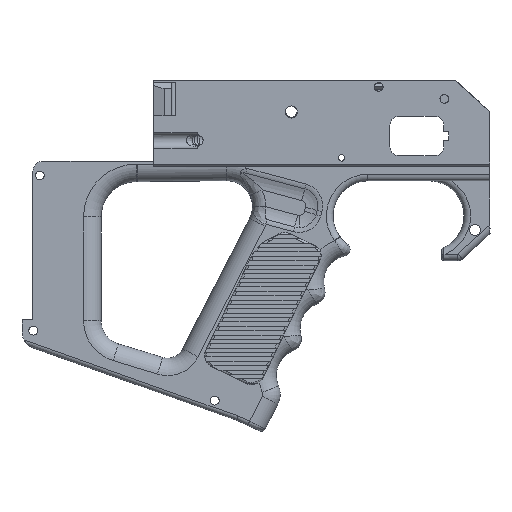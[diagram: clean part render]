
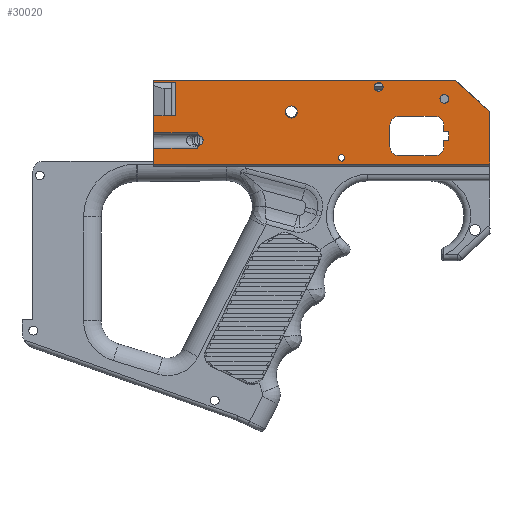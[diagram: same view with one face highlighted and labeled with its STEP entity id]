
A CAD part, left-side view. The second image highlights one B-rep face of the part: STEP entity #30020.
In plain terms, the highlighted planar face has unit normal (-1, 0, 0).
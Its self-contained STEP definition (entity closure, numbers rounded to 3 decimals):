
#1532=CARTESIAN_POINT('',(-19.6,554.756,-50.248));
#1533=VERTEX_POINT('',#1532);
#1540=CARTESIAN_POINT('',(-19.6,554.74,-45.76));
#1541=VERTEX_POINT('',#1540);
#1542=CARTESIAN_POINT('',(-19.6,555.85,-48.));
#1543=DIRECTION('',(-1.,0.,0.));
#1544=DIRECTION('',(0.,0.,1.));
#1545=AXIS2_PLACEMENT_3D('',#1542,#1543,#1544);
#1546=CIRCLE('',#1545,2.5);
#1547=EDGE_CURVE('',#1533,#1541,#1546,.T.);
#1783=CARTESIAN_POINT('',(-19.6,422.113,-34.796));
#1784=VERTEX_POINT('',#1783);
#1791=CARTESIAN_POINT('',(-19.6,422.113,-58.784));
#1792=VERTEX_POINT('',#1791);
#1793=CARTESIAN_POINT('',(-19.6,422.113,-34.796));
#1794=DIRECTION('',(-0.,-0.,-1.));
#1795=VECTOR('',#1794,23.988);
#1796=LINE('',#1793,#1795);
#1797=EDGE_CURVE('',#1784,#1792,#1796,.T.);
#2079=CARTESIAN_POINT('',(-19.6,463.9,-55.));
#2080=VERTEX_POINT('',#2079);
#2087=CARTESIAN_POINT('',(-19.6,447.2,-55.));
#2088=VERTEX_POINT('',#2087);
#2089=CARTESIAN_POINT('',(-19.6,463.9,-55.));
#2090=DIRECTION('',(-0.,-1.,-0.));
#2091=VECTOR('',#2090,16.7);
#2092=LINE('',#2089,#2091);
#2093=EDGE_CURVE('',#2080,#2088,#2092,.T.);
#2476=CARTESIAN_POINT('',(-19.6,575.915,-58.784));
#2477=VERTEX_POINT('',#2476);
#2484=CARTESIAN_POINT('',(-19.6,575.915,-51.47));
#2485=VERTEX_POINT('',#2484);
#2486=CARTESIAN_POINT('',(-19.6,575.915,-58.784));
#2487=DIRECTION('',(0.,0.,1.));
#2488=VECTOR('',#2487,7.313);
#2489=LINE('',#2486,#2488);
#2490=EDGE_CURVE('',#2477,#2485,#2489,.T.);
#2509=CARTESIAN_POINT('',(-19.6,575.915,-44.47));
#2510=VERTEX_POINT('',#2509);
#2517=CARTESIAN_POINT('',(-19.6,575.915,-20.698));
#2518=VERTEX_POINT('',#2517);
#2519=CARTESIAN_POINT('',(-19.6,575.915,-20.698));
#2520=DIRECTION('',(0.,0.,-1.));
#2521=VECTOR('',#2520,23.772);
#2522=LINE('',#2519,#2521);
#2523=EDGE_CURVE('',#2518,#2510,#2522,.T.);
#3096=CARTESIAN_POINT('',(-19.6,443.2,-51.));
#3097=VERTEX_POINT('',#3096);
#3104=CARTESIAN_POINT('',(-19.6,443.2,-48.));
#3105=VERTEX_POINT('',#3104);
#3106=CARTESIAN_POINT('',(-19.6,443.2,-48.));
#3107=DIRECTION('',(0.,0.,-1.));
#3108=VECTOR('',#3107,3.);
#3109=LINE('',#3106,#3108);
#3110=EDGE_CURVE('',#3105,#3097,#3109,.T.);
#4447=CARTESIAN_POINT('',(-19.6,437.809,-20.698));
#4448=VERTEX_POINT('',#4447);
#4449=CARTESIAN_POINT('',(-19.6,575.915,-20.698));
#4450=DIRECTION('',(-0.,-1.,-0.));
#4451=VECTOR('',#4450,138.107);
#4452=LINE('',#4449,#4451);
#4453=EDGE_CURVE('',#2518,#4448,#4452,.T.);
#4557=CARTESIAN_POINT('',(-19.6,437.809,-20.698));
#4558=DIRECTION('',(-0.,-0.744,-0.668));
#4559=VECTOR('',#4558,21.098);
#4560=LINE('',#4557,#4559);
#4561=EDGE_CURVE('',#4448,#1784,#4560,.T.);
#18595=CARTESIAN_POINT('',(-19.6,443.2,-44.));
#18596=VERTEX_POINT('',#18595);
#18605=CARTESIAN_POINT('',(-19.6,443.2,-41.));
#18606=VERTEX_POINT('',#18605);
#18607=CARTESIAN_POINT('',(-19.6,443.2,-41.));
#18608=DIRECTION('',(0.,0.,-1.));
#18609=VECTOR('',#18608,3.);
#18610=LINE('',#18607,#18609);
#18611=EDGE_CURVE('',#18606,#18596,#18610,.T.);
#18671=CARTESIAN_POINT('',(-19.6,467.9,-41.));
#18672=VERTEX_POINT('',#18671);
#18679=CARTESIAN_POINT('',(-19.6,467.9,-51.));
#18680=VERTEX_POINT('',#18679);
#18681=CARTESIAN_POINT('',(-19.6,467.9,-41.));
#18682=DIRECTION('',(-0.,-0.,-1.));
#18683=VECTOR('',#18682,10.);
#18684=LINE('',#18681,#18683);
#18685=EDGE_CURVE('',#18672,#18680,#18684,.T.);
#18711=CARTESIAN_POINT('',(-19.6,447.2,-37.));
#18712=VERTEX_POINT('',#18711);
#18719=CARTESIAN_POINT('',(-19.6,463.9,-37.));
#18720=VERTEX_POINT('',#18719);
#18721=CARTESIAN_POINT('',(-19.6,447.2,-37.));
#18722=DIRECTION('',(0.,1.,0.));
#18723=VECTOR('',#18722,16.7);
#18724=LINE('',#18721,#18723);
#18725=EDGE_CURVE('',#18712,#18720,#18724,.T.);
#19213=CARTESIAN_POINT('',(-19.6,440.9,-48.));
#19214=VERTEX_POINT('',#19213);
#19221=CARTESIAN_POINT('',(-19.6,440.9,-44.));
#19222=VERTEX_POINT('',#19221);
#19223=CARTESIAN_POINT('',(-19.6,440.9,-44.));
#19224=DIRECTION('',(0.,0.,-1.));
#19225=VECTOR('',#19224,4.);
#19226=LINE('',#19223,#19225);
#19227=EDGE_CURVE('',#19222,#19214,#19226,.T.);
#19245=CARTESIAN_POINT('',(-19.6,443.2,-44.));
#19246=DIRECTION('',(-0.,-1.,-0.));
#19247=VECTOR('',#19246,2.3);
#19248=LINE('',#19245,#19247);
#19249=EDGE_CURVE('',#18596,#19222,#19248,.T.);
#19262=CARTESIAN_POINT('',(-19.6,440.9,-48.));
#19263=DIRECTION('',(0.,1.,0.));
#19264=VECTOR('',#19263,2.3);
#19265=LINE('',#19262,#19264);
#19266=EDGE_CURVE('',#19214,#3105,#19265,.T.);
#19362=CARTESIAN_POINT('',(-19.6,447.2,-51.));
#19363=DIRECTION('',(1.,0.,0.));
#19364=DIRECTION('',(0.,0.,-1.));
#19365=AXIS2_PLACEMENT_3D('',#19362,#19363,#19364);
#19366=CIRCLE('',#19365,4.);
#19367=EDGE_CURVE('',#3097,#2088,#19366,.T.);
#19380=CARTESIAN_POINT('',(-19.6,447.2,-41.));
#19381=DIRECTION('',(1.,0.,0.));
#19382=DIRECTION('',(0.,0.,-1.));
#19383=AXIS2_PLACEMENT_3D('',#19380,#19381,#19382);
#19384=CIRCLE('',#19383,4.);
#19385=EDGE_CURVE('',#18712,#18606,#19384,.T.);
#19416=CARTESIAN_POINT('',(-19.6,463.9,-41.));
#19417=DIRECTION('',(1.,-0.,-0.));
#19418=DIRECTION('',(0.,0.,1.));
#19419=AXIS2_PLACEMENT_3D('',#19416,#19417,#19418);
#19420=CIRCLE('',#19419,4.);
#19421=EDGE_CURVE('',#18672,#18720,#19420,.T.);
#19440=CARTESIAN_POINT('',(-19.6,463.9,-51.));
#19441=DIRECTION('',(1.,-0.,-0.));
#19442=DIRECTION('',(0.,0.,1.));
#19443=AXIS2_PLACEMENT_3D('',#19440,#19441,#19442);
#19444=CIRCLE('',#19443,4.);
#19445=EDGE_CURVE('',#2080,#18680,#19444,.T.);
#23771=CARTESIAN_POINT('',(-19.6,490.,-57.45));
#23772=VERTEX_POINT('',#23771);
#23787=CARTESIAN_POINT('',(-19.6,490.,-56.));
#23788=DIRECTION('',(-1.,-0.,-0.));
#23789=DIRECTION('',(0.,0.,-1.));
#23790=AXIS2_PLACEMENT_3D('',#23787,#23788,#23789);
#23791=CIRCLE('',#23790,1.45);
#23792=EDGE_CURVE('',#23772,#23772,#23791,.T.);
#29804=CARTESIAN_POINT('',(-19.6,555.915,-51.47));
#29805=VERTEX_POINT('',#29804);
#29806=CARTESIAN_POINT('',(-19.6,555.915,-51.47));
#29807=DIRECTION('',(0.,1.,0.));
#29808=VECTOR('',#29807,20.);
#29809=LINE('',#29806,#29808);
#29810=EDGE_CURVE('',#29805,#2485,#29809,.T.);
#29859=CARTESIAN_POINT('',(-19.6,555.915,-44.47));
#29860=VERTEX_POINT('',#29859);
#29867=CARTESIAN_POINT('',(-19.6,555.915,-44.47));
#29868=DIRECTION('',(0.,1.,0.));
#29869=VECTOR('',#29868,20.);
#29870=LINE('',#29867,#29869);
#29871=EDGE_CURVE('',#29860,#2510,#29870,.T.);
#29884=CARTESIAN_POINT('',(-19.6,553.675,-43.609));
#29885=DIRECTION('',(-1.,-0.,-0.));
#29886=DIRECTION('',(0.,0.,-1.));
#29887=AXIS2_PLACEMENT_3D('',#29884,#29885,#29886);
#29888=CIRCLE('',#29887,2.4);
#29889=EDGE_CURVE('',#29860,#1541,#29888,.T.);
#29902=CARTESIAN_POINT('',(-19.6,553.705,-52.406));
#29903=DIRECTION('',(-1.,-0.,-0.));
#29904=DIRECTION('',(0.,0.,-1.));
#29905=AXIS2_PLACEMENT_3D('',#29902,#29903,#29904);
#29906=CIRCLE('',#29905,2.4);
#29907=EDGE_CURVE('',#1533,#29805,#29906,.T.);
#29913=CARTESIAN_POINT('',(-19.6,0.,0.));
#29914=DIRECTION('',(-1.,0.,0.));
#29915=DIRECTION('',(0.,1.,0.));
#29916=AXIS2_PLACEMENT_3D('',#29913,#29914,#29915);
#29917=PLANE('',#29916);
#29918=CARTESIAN_POINT('',(-19.6,513.,-32.22));
#29919=VERTEX_POINT('',#29918);
#29920=CARTESIAN_POINT('',(-19.6,513.,-35.));
#29921=DIRECTION('',(-1.,0.,0.));
#29922=DIRECTION('',(0.,0.,1.));
#29923=AXIS2_PLACEMENT_3D('',#29920,#29921,#29922);
#29924=CIRCLE('',#29923,2.78);
#29925=EDGE_CURVE('',#29919,#29919,#29924,.T.);
#29926=ORIENTED_EDGE('',*,*,#29925,.F.);
#29927=EDGE_LOOP('',(#29926));
#29928=FACE_BOUND('',#29927,.T.);
#29929=CARTESIAN_POINT('',(-19.6,565.735,-21.3));
#29930=VERTEX_POINT('',#29929);
#29931=CARTESIAN_POINT('',(-19.6,572.735,-21.3));
#29932=VERTEX_POINT('',#29931);
#29933=CARTESIAN_POINT('',(-19.6,565.735,-21.3));
#29934=DIRECTION('',(-0.,1.,-0.));
#29935=VECTOR('',#29934,7.);
#29936=LINE('',#29933,#29935);
#29937=EDGE_CURVE('',#29930,#29932,#29936,.T.);
#29938=ORIENTED_EDGE('',*,*,#29937,.F.);
#29939=CARTESIAN_POINT('',(-19.6,565.735,-36.7));
#29940=VERTEX_POINT('',#29939);
#29941=CARTESIAN_POINT('',(-19.6,565.735,-21.3));
#29942=DIRECTION('',(0.,0.,-1.));
#29943=VECTOR('',#29942,15.4);
#29944=LINE('',#29941,#29943);
#29945=EDGE_CURVE('',#29930,#29940,#29944,.T.);
#29946=ORIENTED_EDGE('',*,*,#29945,.T.);
#29947=CARTESIAN_POINT('',(-19.6,572.735,-36.7));
#29948=VERTEX_POINT('',#29947);
#29949=CARTESIAN_POINT('',(-19.6,572.735,-36.7));
#29950=DIRECTION('',(-0.,-1.,-0.));
#29951=VECTOR('',#29950,7.);
#29952=LINE('',#29949,#29951);
#29953=EDGE_CURVE('',#29948,#29940,#29952,.T.);
#29954=ORIENTED_EDGE('',*,*,#29953,.F.);
#29955=CARTESIAN_POINT('',(-19.6,572.735,-36.7));
#29956=DIRECTION('',(-0.,-0.,1.));
#29957=VECTOR('',#29956,15.4);
#29958=LINE('',#29955,#29957);
#29959=EDGE_CURVE('',#29948,#29932,#29958,.T.);
#29960=ORIENTED_EDGE('',*,*,#29959,.T.);
#29961=EDGE_LOOP('',(#29938,#29946,#29954,#29960));
#29962=FACE_BOUND('',#29961,.T.);
#29963=CARTESIAN_POINT('',(-19.6,473.,-21.5));
#29964=VERTEX_POINT('',#29963);
#29965=CARTESIAN_POINT('',(-19.6,473.,-23.5));
#29966=DIRECTION('',(-1.,0.,0.));
#29967=DIRECTION('',(0.,0.,1.));
#29968=AXIS2_PLACEMENT_3D('',#29965,#29966,#29967);
#29969=CIRCLE('',#29968,2.);
#29970=EDGE_CURVE('',#29964,#29964,#29969,.T.);
#29971=ORIENTED_EDGE('',*,*,#29970,.F.);
#29972=EDGE_LOOP('',(#29971));
#29973=FACE_BOUND('',#29972,.T.);
#29974=CARTESIAN_POINT('',(-19.6,443.,-27.));
#29975=VERTEX_POINT('',#29974);
#29976=CARTESIAN_POINT('',(-19.6,443.,-29.));
#29977=DIRECTION('',(-1.,0.,0.));
#29978=DIRECTION('',(0.,0.,1.));
#29979=AXIS2_PLACEMENT_3D('',#29976,#29977,#29978);
#29980=CIRCLE('',#29979,2.);
#29981=EDGE_CURVE('',#29975,#29975,#29980,.T.);
#29982=ORIENTED_EDGE('',*,*,#29981,.F.);
#29983=EDGE_LOOP('',(#29982));
#29984=FACE_BOUND('',#29983,.T.);
#29985=ORIENTED_EDGE('',*,*,#2490,.F.);
#29986=CARTESIAN_POINT('',(-19.6,575.915,-58.784));
#29987=DIRECTION('',(-0.,-1.,-0.));
#29988=VECTOR('',#29987,153.803);
#29989=LINE('',#29986,#29988);
#29990=EDGE_CURVE('',#2477,#1792,#29989,.T.);
#29991=ORIENTED_EDGE('',*,*,#29990,.T.);
#29992=ORIENTED_EDGE('',*,*,#1797,.F.);
#29993=ORIENTED_EDGE('',*,*,#4561,.F.);
#29994=ORIENTED_EDGE('',*,*,#4453,.F.);
#29995=ORIENTED_EDGE('',*,*,#2523,.T.);
#29996=ORIENTED_EDGE('',*,*,#29871,.F.);
#29997=ORIENTED_EDGE('',*,*,#29889,.T.);
#29998=ORIENTED_EDGE('',*,*,#1547,.F.);
#29999=ORIENTED_EDGE('',*,*,#29907,.T.);
#30000=ORIENTED_EDGE('',*,*,#29810,.T.);
#30001=EDGE_LOOP('',(#29985,#29991,#29992,#29993,#29994,#29995,#29996,#29997,#29998,#29999,#30000));
#30002=FACE_BOUND('',#30001,.T.);
#30003=ORIENTED_EDGE('',*,*,#23792,.F.);
#30004=EDGE_LOOP('',(#30003));
#30005=FACE_BOUND('',#30004,.T.);
#30006=ORIENTED_EDGE('',*,*,#18685,.F.);
#30007=ORIENTED_EDGE('',*,*,#19421,.T.);
#30008=ORIENTED_EDGE('',*,*,#18725,.F.);
#30009=ORIENTED_EDGE('',*,*,#19385,.T.);
#30010=ORIENTED_EDGE('',*,*,#18611,.T.);
#30011=ORIENTED_EDGE('',*,*,#19249,.T.);
#30012=ORIENTED_EDGE('',*,*,#19227,.T.);
#30013=ORIENTED_EDGE('',*,*,#19266,.T.);
#30014=ORIENTED_EDGE('',*,*,#3110,.T.);
#30015=ORIENTED_EDGE('',*,*,#19367,.T.);
#30016=ORIENTED_EDGE('',*,*,#2093,.F.);
#30017=ORIENTED_EDGE('',*,*,#19445,.T.);
#30018=EDGE_LOOP('',(#30006,#30007,#30008,#30009,#30010,#30011,#30012,#30013,#30014,#30015,#30016,#30017));
#30019=FACE_BOUND('',#30018,.T.);
#30020=ADVANCED_FACE('',(#29928,#29962,#29973,#29984,#30002,#30005,#30019),#29917,.T.);
